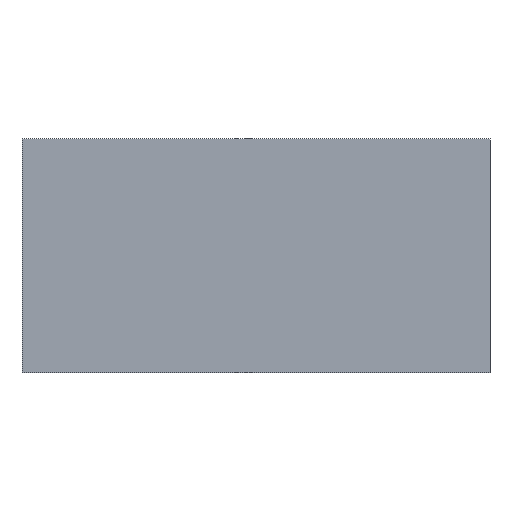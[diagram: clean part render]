
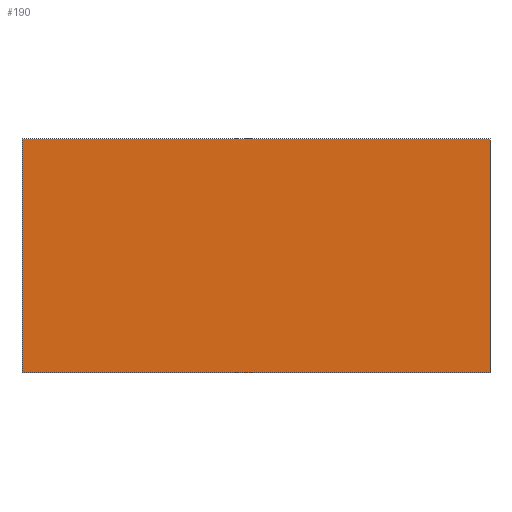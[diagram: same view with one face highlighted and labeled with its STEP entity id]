
A CAD part, front view. The second image highlights one B-rep face of the part: STEP entity #190.
In plain terms, the highlighted planar face has unit normal (0, -1, 0).
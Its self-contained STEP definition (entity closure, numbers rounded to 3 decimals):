
#22 = VERTEX_POINT('',#23);
#23 = CARTESIAN_POINT('',(0.,0.,35.));
#31 = EDGE_CURVE('',#22,#32,#34,.T.);
#32 = VERTEX_POINT('',#33);
#33 = CARTESIAN_POINT('',(70.,0.,35.));
#34 = LINE('',#35,#36);
#35 = CARTESIAN_POINT('',(0.,0.,35.));
#36 = VECTOR('',#37,1.);
#37 = DIRECTION('',(1.,0.,-0.));
#61 = EDGE_CURVE('',#62,#22,#64,.T.);
#62 = VERTEX_POINT('',#63);
#63 = CARTESIAN_POINT('',(0.,0.,0.));
#64 = LINE('',#65,#66);
#65 = CARTESIAN_POINT('',(0.,0.,0.));
#66 = VECTOR('',#67,1.);
#67 = DIRECTION('',(0.,0.,1.));
#154 = EDGE_CURVE('',#155,#32,#157,.T.);
#155 = VERTEX_POINT('',#156);
#156 = CARTESIAN_POINT('',(70.,0.,0.));
#157 = LINE('',#158,#159);
#158 = CARTESIAN_POINT('',(70.,0.,0.));
#159 = VECTOR('',#160,1.);
#160 = DIRECTION('',(0.,0.,1.));
#190 = ADVANCED_FACE('',(#191),#202,.F.);
#191 = FACE_BOUND('',#192,.T.);
#192 = EDGE_LOOP('',(#193,#199,#200,#201));
#193 = ORIENTED_EDGE('',*,*,#194,.T.);
#194 = EDGE_CURVE('',#62,#155,#195,.T.);
#195 = LINE('',#196,#197);
#196 = CARTESIAN_POINT('',(0.,0.,0.));
#197 = VECTOR('',#198,1.);
#198 = DIRECTION('',(1.,0.,-0.));
#199 = ORIENTED_EDGE('',*,*,#154,.T.);
#200 = ORIENTED_EDGE('',*,*,#31,.F.);
#201 = ORIENTED_EDGE('',*,*,#61,.F.);
#202 = PLANE('',#203);
#203 = AXIS2_PLACEMENT_3D('',#204,#205,#206);
#204 = CARTESIAN_POINT('',(0.,0.,0.));
#205 = DIRECTION('',(-0.,1.,0.));
#206 = DIRECTION('',(0.,0.,1.));
